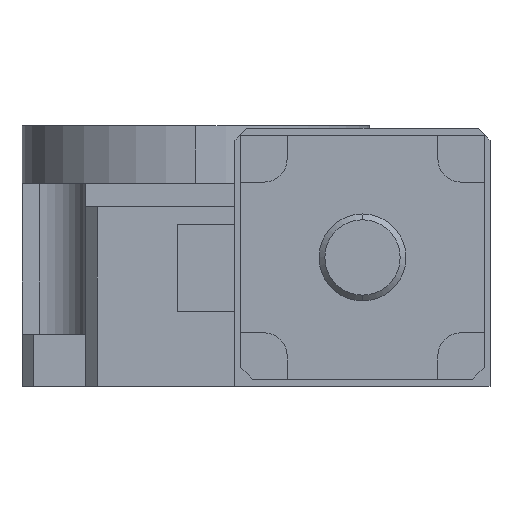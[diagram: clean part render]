
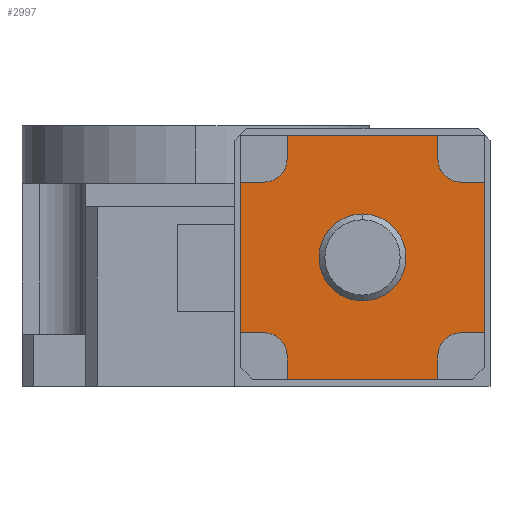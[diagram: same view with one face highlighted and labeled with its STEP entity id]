
A CAD part, left-side view. The second image highlights one B-rep face of the part: STEP entity #2997.
In plain terms, the highlighted planar face has unit normal (-1, 0, 0).
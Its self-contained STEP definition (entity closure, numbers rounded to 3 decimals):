
#37 = LINE ( 'NONE', #595, #3749 ) ;
#42 = ORIENTED_EDGE ( 'NONE', *, *, #2602, .F. ) ;
#78 = EDGE_LOOP ( 'NONE', ( #3213, #42 ) ) ;
#118 = CARTESIAN_POINT ( 'NONE',  ( -104., -7.75, 43.25 ) ) ;
#162 = DIRECTION ( 'NONE',  ( 0., 0., 1. ) ) ;
#163 = EDGE_CURVE ( 'NONE', #4032, #3412, #4076, .T. ) ;
#248 = EDGE_CURVE ( 'NONE', #1119, #2008, #2528, .T. ) ;
#271 = CARTESIAN_POINT ( 'NONE',  ( -104., -49.75, 35.25 ) ) ;
#281 = CARTESIAN_POINT ( 'NONE',  ( -104., -41.75, 43.25 ) ) ;
#300 = EDGE_CURVE ( 'NONE', #1033, #560, #3227, .T. ) ;
#311 = LINE ( 'NONE', #2834, #3543 ) ;
#367 = DIRECTION ( 'NONE',  ( 0., 1., 0. ) ) ;
#388 = EDGE_CURVE ( 'NONE', #1783, #2479, #3485, .T. ) ;
#404 = CIRCLE ( 'NONE', #3797, 4. ) ;
#455 = VERTEX_POINT ( 'NONE', #1236 ) ;
#459 = DIRECTION ( 'NONE',  ( 0., 1., 0. ) ) ;
#515 = VECTOR ( 'NONE', #2426, 1000. ) ;
#548 = CARTESIAN_POINT ( 'NONE',  ( -104., -11.75, 39.25 ) ) ;
#560 = VERTEX_POINT ( 'NONE', #3310 ) ;
#578 = LINE ( 'NONE', #848, #690 ) ;
#595 = CARTESIAN_POINT ( 'NONE',  ( -104., -41.75, 1.25 ) ) ;
#626 = LINE ( 'NONE', #118, #1310 ) ;
#690 = VECTOR ( 'NONE', #3904, 1000. ) ;
#733 = CARTESIAN_POINT ( 'NONE',  ( -104., -45.75, 9.25 ) ) ;
#738 = VECTOR ( 'NONE', #367, 1000. ) ;
#740 = CARTESIAN_POINT ( 'NONE',  ( -104., -15.75, 39.25 ) ) ;
#778 = EDGE_CURVE ( 'NONE', #4332, #1729, #311, .T. ) ;
#800 = CARTESIAN_POINT ( 'NONE',  ( -104., -49.75, 9.25 ) ) ;
#802 = CARTESIAN_POINT ( 'NONE',  ( -104., -15.75, 1.25 ) ) ;
#848 = CARTESIAN_POINT ( 'NONE',  ( -104., -49.75, 43.25 ) ) ;
#862 = VECTOR ( 'NONE', #1579, 1000. ) ;
#884 = ORIENTED_EDGE ( 'NONE', *, *, #2076, .F. ) ;
#915 = CARTESIAN_POINT ( 'NONE',  ( -104., -7.75, 1.25 ) ) ;
#918 = AXIS2_PLACEMENT_3D ( 'NONE', #2567, #4281, #3949 ) ;
#921 = DIRECTION ( 'NONE',  ( -1., 0., 0. ) ) ;
#964 = DIRECTION ( 'NONE',  ( 0., -1., 0. ) ) ;
#989 = ORIENTED_EDGE ( 'NONE', *, *, #3671, .F. ) ;
#1012 = VECTOR ( 'NONE', #1181, 1000. ) ;
#1020 = CARTESIAN_POINT ( 'NONE',  ( -104., -15.75, 1.25 ) ) ;
#1033 = VERTEX_POINT ( 'NONE', #1020 ) ;
#1083 = CARTESIAN_POINT ( 'NONE',  ( -104., -41.75, 1.25 ) ) ;
#1088 = ORIENTED_EDGE ( 'NONE', *, *, #2410, .T. ) ;
#1119 = VERTEX_POINT ( 'NONE', #740 ) ;
#1138 = CARTESIAN_POINT ( 'NONE',  ( -104., -23.75, 22.25 ) ) ;
#1158 = DIRECTION ( 'NONE',  ( 0., 1., 0. ) ) ;
#1178 = CIRCLE ( 'NONE', #2756, 5. ) ;
#1181 = DIRECTION ( 'NONE',  ( 0., 0., 1. ) ) ;
#1236 = CARTESIAN_POINT ( 'NONE',  ( -104., -11.75, 35.25 ) ) ;
#1282 = ORIENTED_EDGE ( 'NONE', *, *, #300, .F. ) ;
#1292 = EDGE_CURVE ( 'NONE', #2103, #2023, #2673, .T. ) ;
#1301 = EDGE_CURVE ( 'NONE', #4332, #3935, #578, .T. ) ;
#1308 = CARTESIAN_POINT ( 'NONE',  ( -104., -41.75, 1.25 ) ) ;
#1310 = VECTOR ( 'NONE', #2160, 1000. ) ;
#1416 = CIRCLE ( 'NONE', #918, 4. ) ;
#1467 = EDGE_CURVE ( 'NONE', #4151, #3934, #37, .T. ) ;
#1483 = DIRECTION ( 'NONE',  ( 0., 1., 0. ) ) ;
#1513 = ORIENTED_EDGE ( 'NONE', *, *, #1292, .F. ) ;
#1556 = ORIENTED_EDGE ( 'NONE', *, *, #1467, .T. ) ;
#1579 = DIRECTION ( 'NONE',  ( 0., -1., 0. ) ) ;
#1618 = DIRECTION ( 'NONE',  ( -1., 0., 0. ) ) ;
#1729 = VERTEX_POINT ( 'NONE', #733 ) ;
#1734 = FACE_BOUND ( 'NONE', #78, .T. ) ;
#1783 = VERTEX_POINT ( 'NONE', #3821 ) ;
#1829 = DIRECTION ( 'NONE',  ( -1., 0., 0. ) ) ;
#1842 = DIRECTION ( 'NONE',  ( -1., 0., 0. ) ) ;
#1919 = AXIS2_PLACEMENT_3D ( 'NONE', #3123, #4175, #1158 ) ;
#1938 = VECTOR ( 'NONE', #459, 1000. ) ;
#1948 = ORIENTED_EDGE ( 'NONE', *, *, #248, .F. ) ;
#2008 = VERTEX_POINT ( 'NONE', #3899 ) ;
#2009 = DIRECTION ( 'NONE',  ( 0., -1., 0. ) ) ;
#2016 = AXIS2_PLACEMENT_3D ( 'NONE', #2460, #3143, #2433 ) ;
#2023 = VERTEX_POINT ( 'NONE', #3218 ) ;
#2076 = EDGE_CURVE ( 'NONE', #560, #2103, #3125, .T. ) ;
#2103 = VERTEX_POINT ( 'NONE', #3669 ) ;
#2139 = EDGE_CURVE ( 'NONE', #2479, #3935, #3341, .T. ) ;
#2160 = DIRECTION ( 'NONE',  ( 0., 0., -1. ) ) ;
#2170 = LINE ( 'NONE', #915, #862 ) ;
#2186 = ORIENTED_EDGE ( 'NONE', *, *, #4298, .F. ) ;
#2200 = DIRECTION ( 'NONE',  ( 0., -1., 0. ) ) ;
#2293 = DIRECTION ( 'NONE',  ( 0., 0., 1. ) ) ;
#2297 = LINE ( 'NONE', #1083, #515 ) ;
#2316 = AXIS2_PLACEMENT_3D ( 'NONE', #2983, #1618, #3953 ) ;
#2350 = VECTOR ( 'NONE', #2009, 1000. ) ;
#2410 = EDGE_CURVE ( 'NONE', #1033, #4151, #2170, .T. ) ;
#2413 = CARTESIAN_POINT ( 'NONE',  ( -104., -33.75, 22.25 ) ) ;
#2426 = DIRECTION ( 'NONE',  ( 0., 0., -1. ) ) ;
#2433 = DIRECTION ( 'NONE',  ( 0., 1., 0. ) ) ;
#2460 = CARTESIAN_POINT ( 'NONE',  ( -104., -28.75, 22.25 ) ) ;
#2479 = VERTEX_POINT ( 'NONE', #3455 ) ;
#2528 = LINE ( 'NONE', #802, #1012 ) ;
#2560 = DIRECTION ( 'NONE',  ( 0., -1., 0. ) ) ;
#2567 = CARTESIAN_POINT ( 'NONE',  ( -104., -45.75, 5.25 ) ) ;
#2602 = EDGE_CURVE ( 'NONE', #3412, #4032, #1178, .T. ) ;
#2627 = CARTESIAN_POINT ( 'NONE',  ( -104., -49.75, 9.25 ) ) ;
#2641 = VECTOR ( 'NONE', #964, 1000. ) ;
#2673 = LINE ( 'NONE', #800, #1938 ) ;
#2709 = LINE ( 'NONE', #271, #2350 ) ;
#2756 = AXIS2_PLACEMENT_3D ( 'NONE', #3156, #1829, #1483 ) ;
#2834 = CARTESIAN_POINT ( 'NONE',  ( -104., -49.75, 9.25 ) ) ;
#2841 = ORIENTED_EDGE ( 'NONE', *, *, #3070, .T. ) ;
#2844 = ORIENTED_EDGE ( 'NONE', *, *, #1301, .T. ) ;
#2868 = ORIENTED_EDGE ( 'NONE', *, *, #3012, .T. ) ;
#2969 = CARTESIAN_POINT ( 'NONE',  ( -104., -49.75, 35.25 ) ) ;
#2983 = CARTESIAN_POINT ( 'NONE',  ( -104., -11.75, 5.25 ) ) ;
#2986 = AXIS2_PLACEMENT_3D ( 'NONE', #3252, #921, #2560 ) ;
#2997 = ADVANCED_FACE ( 'NONE', ( #1734, #4215 ), #3807, .F. ) ;
#3012 = EDGE_CURVE ( 'NONE', #4149, #2008, #3999, .T. ) ;
#3059 = CARTESIAN_POINT ( 'NONE',  ( -104., -49.75, 35.25 ) ) ;
#3070 = EDGE_CURVE ( 'NONE', #3620, #2023, #626, .T. ) ;
#3094 = EDGE_LOOP ( 'NONE', ( #1282, #1088, #1556, #3753, #3778, #2844, #3990, #3640, #4050, #2868, #1948, #989, #2186, #2841, #1513, #884 ) ) ;
#3123 = CARTESIAN_POINT ( 'NONE',  ( -104., -49.75, 1.25 ) ) ;
#3125 = CIRCLE ( 'NONE', #2316, 4. ) ;
#3143 = DIRECTION ( 'NONE',  ( -1., 0., 0. ) ) ;
#3156 = CARTESIAN_POINT ( 'NONE',  ( -104., -28.75, 22.25 ) ) ;
#3213 = ORIENTED_EDGE ( 'NONE', *, *, #163, .F. ) ;
#3218 = CARTESIAN_POINT ( 'NONE',  ( -104., -7.75, 9.25 ) ) ;
#3227 = LINE ( 'NONE', #3516, #3438 ) ;
#3252 = CARTESIAN_POINT ( 'NONE',  ( -104., -45.75, 39.25 ) ) ;
#3310 = CARTESIAN_POINT ( 'NONE',  ( -104., -15.75, 5.25 ) ) ;
#3341 = LINE ( 'NONE', #2969, #2641 ) ;
#3412 = VERTEX_POINT ( 'NONE', #2413 ) ;
#3438 = VECTOR ( 'NONE', #162, 1000. ) ;
#3455 = CARTESIAN_POINT ( 'NONE',  ( -104., -45.75, 35.25 ) ) ;
#3485 = CIRCLE ( 'NONE', #2986, 4. ) ;
#3498 = EDGE_CURVE ( 'NONE', #4149, #1783, #2297, .T. ) ;
#3516 = CARTESIAN_POINT ( 'NONE',  ( -104., -15.75, 1.25 ) ) ;
#3543 = VECTOR ( 'NONE', #4171, 1000. ) ;
#3620 = VERTEX_POINT ( 'NONE', #3910 ) ;
#3640 = ORIENTED_EDGE ( 'NONE', *, *, #388, .F. ) ;
#3669 = CARTESIAN_POINT ( 'NONE',  ( -104., -11.75, 9.25 ) ) ;
#3671 = EDGE_CURVE ( 'NONE', #455, #1119, #404, .T. ) ;
#3749 = VECTOR ( 'NONE', #2293, 1000. ) ;
#3753 = ORIENTED_EDGE ( 'NONE', *, *, #4094, .F. ) ;
#3778 = ORIENTED_EDGE ( 'NONE', *, *, #778, .F. ) ;
#3797 = AXIS2_PLACEMENT_3D ( 'NONE', #548, #1842, #2200 ) ;
#3807 = PLANE ( 'NONE',  #1919 ) ;
#3821 = CARTESIAN_POINT ( 'NONE',  ( -104., -41.75, 39.25 ) ) ;
#3899 = CARTESIAN_POINT ( 'NONE',  ( -104., -15.75, 43.25 ) ) ;
#3904 = DIRECTION ( 'NONE',  ( 0., 0., 1. ) ) ;
#3910 = CARTESIAN_POINT ( 'NONE',  ( -104., -7.75, 35.25 ) ) ;
#3934 = VERTEX_POINT ( 'NONE', #4086 ) ;
#3935 = VERTEX_POINT ( 'NONE', #3059 ) ;
#3949 = DIRECTION ( 'NONE',  ( 0., -1., 0. ) ) ;
#3953 = DIRECTION ( 'NONE',  ( 0., -1., 0. ) ) ;
#3990 = ORIENTED_EDGE ( 'NONE', *, *, #2139, .F. ) ;
#3999 = LINE ( 'NONE', #4025, #738 ) ;
#4025 = CARTESIAN_POINT ( 'NONE',  ( -104., -7.75, 43.25 ) ) ;
#4032 = VERTEX_POINT ( 'NONE', #1138 ) ;
#4050 = ORIENTED_EDGE ( 'NONE', *, *, #3498, .F. ) ;
#4076 = CIRCLE ( 'NONE', #2016, 5. ) ;
#4086 = CARTESIAN_POINT ( 'NONE',  ( -104., -41.75, 5.25 ) ) ;
#4094 = EDGE_CURVE ( 'NONE', #1729, #3934, #1416, .T. ) ;
#4149 = VERTEX_POINT ( 'NONE', #281 ) ;
#4151 = VERTEX_POINT ( 'NONE', #1308 ) ;
#4171 = DIRECTION ( 'NONE',  ( 0., 1., 0. ) ) ;
#4175 = DIRECTION ( 'NONE',  ( 1., 0., 0. ) ) ;
#4215 = FACE_OUTER_BOUND ( 'NONE', #3094, .T. ) ;
#4281 = DIRECTION ( 'NONE',  ( -1., 0., 0. ) ) ;
#4298 = EDGE_CURVE ( 'NONE', #3620, #455, #2709, .T. ) ;
#4332 = VERTEX_POINT ( 'NONE', #2627 ) ;
